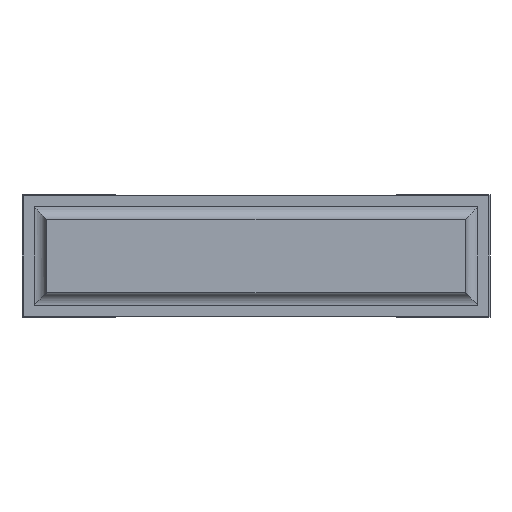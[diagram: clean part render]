
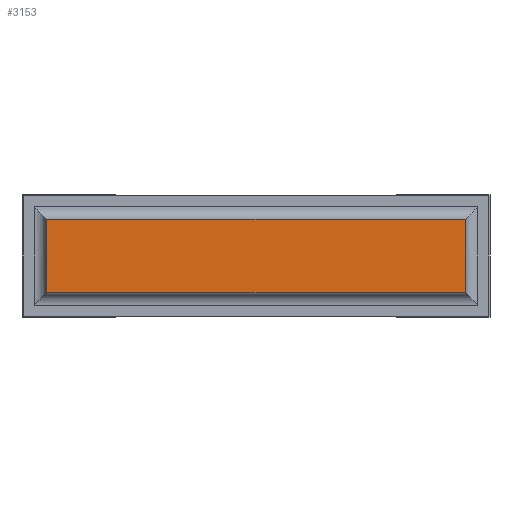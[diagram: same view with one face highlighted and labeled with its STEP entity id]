
A CAD part, front view. The second image highlights one B-rep face of the part: STEP entity #3153.
In plain terms, the highlighted planar face has unit normal (0, -1, 0).
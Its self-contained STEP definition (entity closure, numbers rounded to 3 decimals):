
#127=FACE_OUTER_BOUND('',#323,.T.);
#323=EDGE_LOOP('',(#2099,#2100,#2101,#2102));
#528=LINE('',#4505,#940);
#532=LINE('',#4517,#944);
#533=LINE('',#4519,#945);
#534=LINE('',#4520,#946);
#940=VECTOR('',#3618,10.);
#944=VECTOR('',#3630,10.);
#945=VECTOR('',#3631,10.);
#946=VECTOR('',#3632,10.);
#1351=VERTEX_POINT('',#4501);
#1353=VERTEX_POINT('',#4504);
#1357=VERTEX_POINT('',#4516);
#1358=VERTEX_POINT('',#4518);
#1640=EDGE_CURVE('',#1353,#1351,#528,.T.);
#1646=EDGE_CURVE('',#1357,#1353,#532,.T.);
#1647=EDGE_CURVE('',#1358,#1351,#533,.T.);
#1648=EDGE_CURVE('',#1357,#1358,#534,.T.);
#2099=ORIENTED_EDGE('',*,*,#1646,.T.);
#2100=ORIENTED_EDGE('',*,*,#1640,.T.);
#2101=ORIENTED_EDGE('',*,*,#1647,.F.);
#2102=ORIENTED_EDGE('',*,*,#1648,.F.);
#2996=PLANE('',#3381);
#3153=ADVANCED_FACE('',(#127),#2996,.T.);
#3381=AXIS2_PLACEMENT_3D('',#4515,#3628,#3629);
#3618=DIRECTION('',(0.,0.,-1.));
#3628=DIRECTION('center_axis',(0.,-1.,0.));
#3629=DIRECTION('ref_axis',(0.,0.,-1.));
#3630=DIRECTION('',(-1.,0.,0.));
#3631=DIRECTION('',(-1.,0.,0.));
#3632=DIRECTION('',(0.,0.,-1.));
#4501=CARTESIAN_POINT('',(0.1,0.,0.1));
#4504=CARTESIAN_POINT('',(0.1,0.,0.4));
#4505=CARTESIAN_POINT('',(0.1,0.,0.4));
#4515=CARTESIAN_POINT('Origin',(1.81,0.,0.25));
#4516=CARTESIAN_POINT('',(1.81,0.,0.4));
#4517=CARTESIAN_POINT('',(1.81,0.,0.4));
#4518=CARTESIAN_POINT('',(1.81,0.,0.1));
#4519=CARTESIAN_POINT('',(1.81,0.,0.1));
#4520=CARTESIAN_POINT('',(1.81,0.,0.4));
